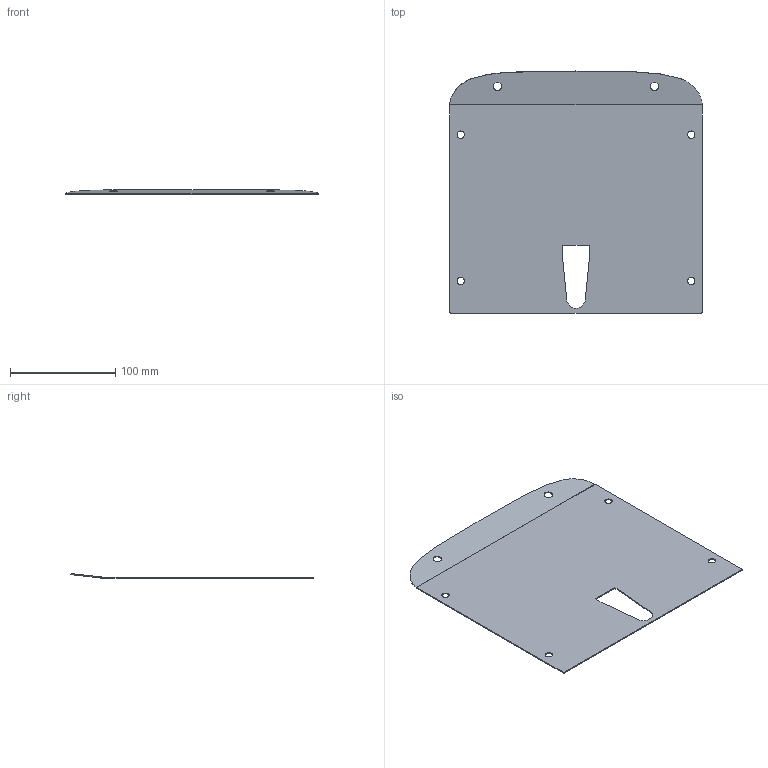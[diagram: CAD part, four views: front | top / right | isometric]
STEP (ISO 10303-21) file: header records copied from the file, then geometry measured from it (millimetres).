
FILE_DESCRIPTION (( 'STEP AP203' ), '1' );
FILE_NAME ('WOODQ063-2.STEP', '2023-09-21T13:36:35', ( '' ), ( '' ), 'SwSTEP 2.0', 'SolidWorks 2018', '' );
FILE_SCHEMA (( 'CONFIG_CONTROL_DESIGN' ));
Length unit declared in the file: millimetre
Products named in the file (1): WOODQ063-2
Bounding box: 240 x 229.88 x 4.59 mm (x, y, z)
Volume: 52805.4 mm3; surface area: 106808.9 mm2
Topology: 1 solids, 1 shells, 41 faces, 109 edges, 70 vertices
Faces by surface type: cylinder 21, plane 12, bspline 8
Entity records: 1510 total; most frequent: CARTESIAN_POINT 425, ORIENTED_EDGE 218, DIRECTION 195, EDGE_CURVE 109, AXIS2_PLACEMENT_3D 72, VERTEX_POINT 70, EDGE_LOOP 55, VECTOR 51
